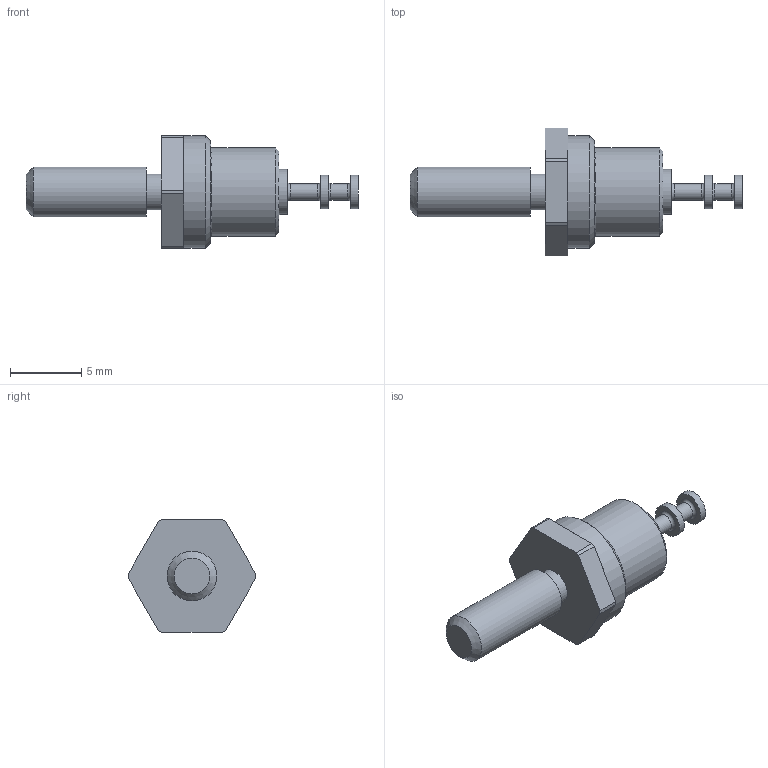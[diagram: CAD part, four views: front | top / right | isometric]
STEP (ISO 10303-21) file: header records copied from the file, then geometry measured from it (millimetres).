
FILE_DESCRIPTION(/* description */ (''),/* implementation_level */ '2;1');
FILE_NAME(/* name */ '\\Snap1\dwgs\Customer 3D Models\570\570-0006-02 Customer model.stp',/* time_stamp */ '2017-01-03T09:47:36+00:00',/* author */ ('paulk'),/* organization */ (''),/* preprocessor_version */ 'ST-DEVELOPER v15.2',/* originating_system */ 'Autodesk Inventor 2014',/* authorisation */ '');
FILE_SCHEMA (('CONFIG_CONTROL_DESIGN'));
Length unit declared in the file: millimetre
Products named in the file (1): 570-0006-02 Customer model
Bounding box: 23.37 x 9 x 7.92 mm (x, y, z)
Volume: 421.5 mm3; surface area: 434 mm2
Topology: 1 solids, 1 shells, 45 faces, 94 edges, 58 vertices
Faces by surface type: plane 21, cylinder 15, cone 5, torus 4
Full cylindrical faces by diameter (mm): 1.168 x2, 2.362 x2, 2.532 x1, 3.175 x1, 3.505 x1, 6.223 x1, 7.925 x1
Entity records: 1169 total; most frequent: DIRECTION 208, CARTESIAN_POINT 174, ORIENTED_EDGE 146, AXIS2_PLACEMENT_3D 89, EDGE_CURVE 73, EDGE_LOOP 70, VERTEX_POINT 55, STYLED_ITEM 46
